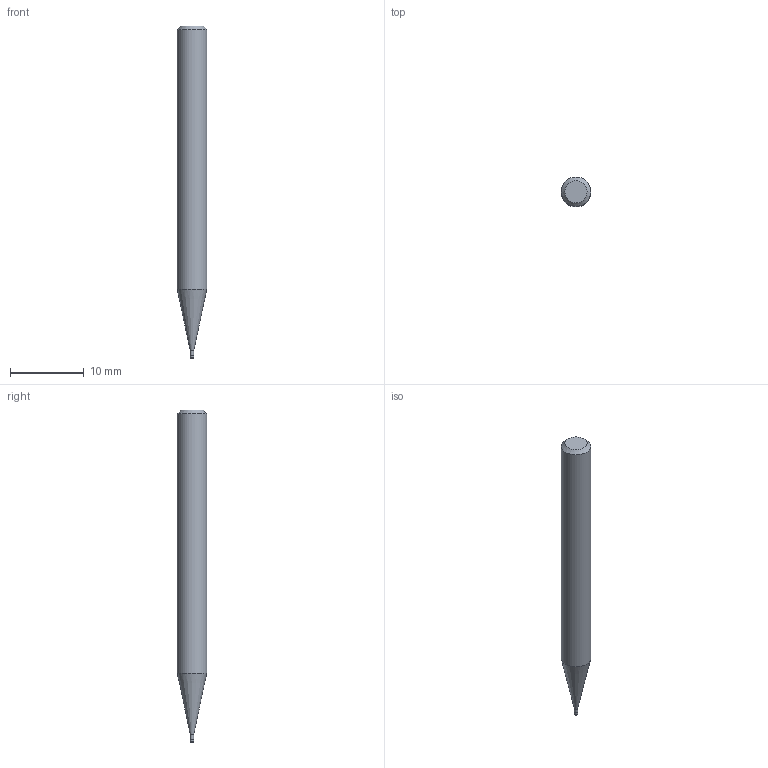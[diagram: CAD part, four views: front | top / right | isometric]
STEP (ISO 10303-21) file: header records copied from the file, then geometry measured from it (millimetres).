
FILE_DESCRIPTION((''),'2;1');
FILE_NAME('C:\Users\nsx150\AppData\Local\Temp\Mastercam 2021\17T8Q8S9EB\TEMP.step','2021-04-21T14:31:10',(''),(''),'STEP Write','Mastercam 2021 ... CNC Software, Inc.','');
FILE_SCHEMA(('AUTOMOTIVE_DESIGN'));
Length unit declared in the file: millimetre
Products named in the file (1): None
Bounding box: 4 x 4 x 45 mm (x, y, z)
Volume: 486.4 mm3; surface area: 518.5 mm2
Topology: 2 solids, 2 shells, 10 faces, 14 edges, 8 vertices
Faces by surface type: plane 4, cylinder 3, cone 2, torus 1
Full cylindrical faces by diameter (mm): 0.46 x1, 0.5 x1, 4 x1
Entity records: 232 total; most frequent: DIRECTION 40, CARTESIAN_POINT 28, AXIS2_PLACEMENT_3D 20, ORIENTED_EDGE 16, EDGE_LOOP 16, STYLED_ITEM 13, ADVANCED_FACE 10, FACE_BOUND 10
